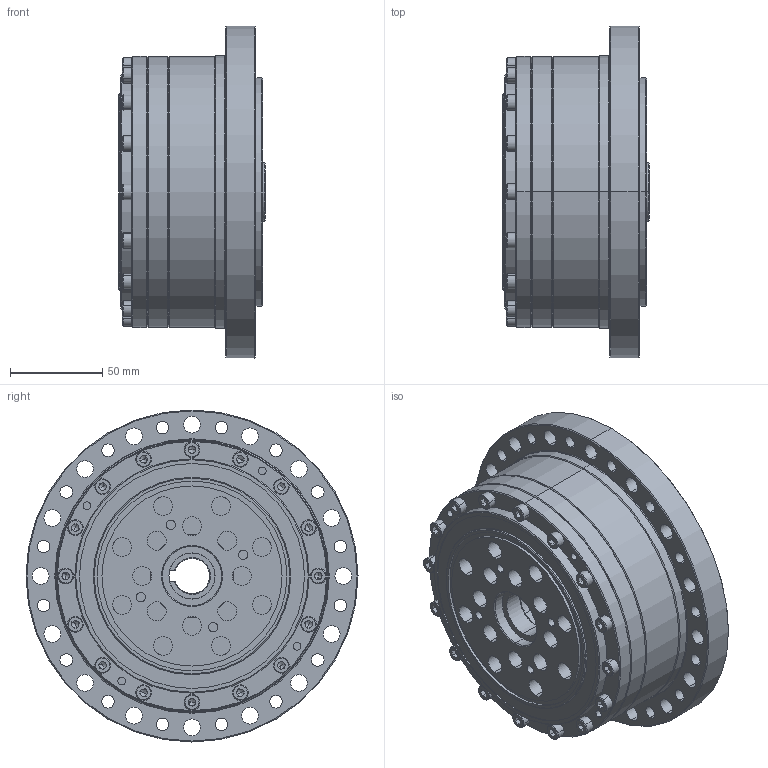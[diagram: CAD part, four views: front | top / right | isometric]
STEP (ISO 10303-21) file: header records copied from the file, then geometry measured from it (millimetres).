
FILE_DESCRIPTION (( 'STEP AP203' ), '1' );
FILE_NAME ('BCS-45-XXX-U-¢ò.STEP', '2019-01-15T03:27:42', ( 'User' ), ( 'China' ), 'SwSTEP 2.0', 'SolidWorks 2015', '' );
FILE_SCHEMA (( 'CONFIG_CONTROL_DESIGN' ));
Length unit declared in the file: millimetre
Products named in the file (1): BCS-45-XXX-U-ｊ
Bounding box: 79.5 x 180 x 180 mm (x, y, z)
Surface area: 180520.9 mm2 (no closed solid volume)
Topology: 0 solids, 37 shells, 534 faces, 1776 edges, 1146 vertices
Faces by surface type: cylinder 212, plane 159, cone 107, sphere 40, torus 14, bspline 2
Entity records: 19745 total; most frequent: CARTESIAN_POINT 4569, DIRECTION 3332, ORIENTED_EDGE 2852, EDGE_CURVE 1644, AXIS2_PLACEMENT_3D 1319, VERTEX_POINT 1086, CIRCLE 786, EDGE_LOOP 715
